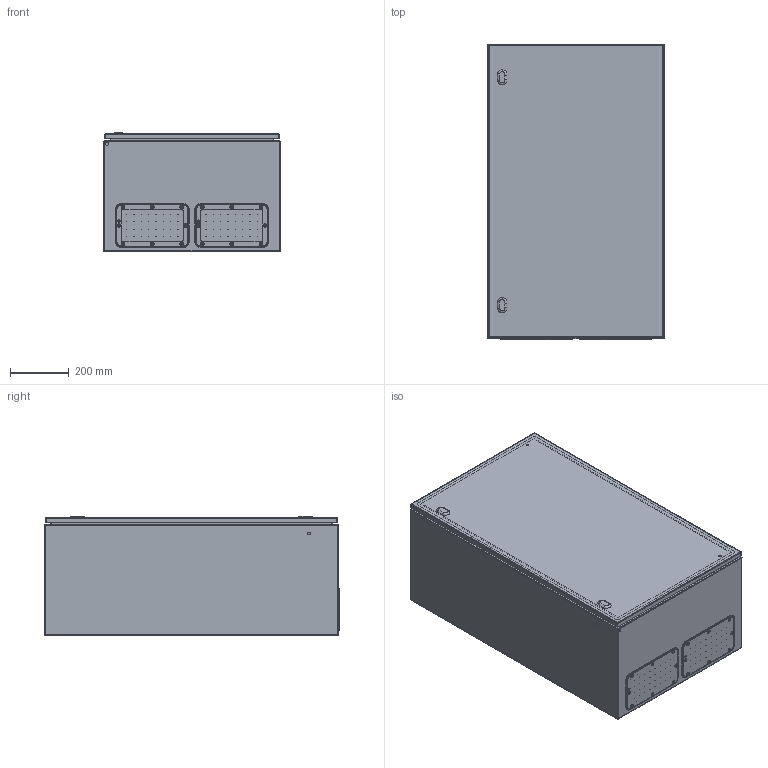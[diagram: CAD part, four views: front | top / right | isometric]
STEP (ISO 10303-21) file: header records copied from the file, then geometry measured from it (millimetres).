
FILE_DESCRIPTION (( 'STEP AP203' ), '1' );
FILE_NAME ('0600x1000x0400 dx.step', '2021-09-07T06:42:08', ( '' ), ( '' ), 'SwSTEP 2.0', 'SolidWorks 2021', '' );
FILE_SCHEMA (( 'CONFIG_CONTROL_DESIGN' ));
Length unit declared in the file: millimetre
Products named in the file (7): AR_ECOR_chiusura_std_STD; AR_ECOR_flangia IC_03; AR_ECOR_involucro_0600x1000x0400; AR_ECOR_porta_singola_0600x1000; AR_ECOR_montaggio_porta_singola_0600x1000; 0600x1000x0400 dx; AR_ECOR_Piastra_18
Assembly tree (8 placements, depth 3):
  0600x1000x0400 dx
    AR_ECOR_involucro_0600x1000x0400
    AR_ECOR_montaggio_porta_singola_0600x1000
      AR_ECOR_porta_singola_0600x1000
      AR_ECOR_chiusura_std_STD  x2
    AR_ECOR_flangia IC_03  x2
    AR_ECOR_Piastra_18
Bounding box: 600 x 1004 x 405 mm (x, y, z)
Volume: 5625180.3 mm3; surface area: 6400689.3 mm2
Topology: 7 solids, 7 shells, 1119 faces, 2785 edges, 1758 vertices
Faces by surface type: cylinder 549, plane 316, cone 108, torus 78, bspline 52, sphere 16
Entity records: 27427 total; most frequent: CARTESIAN_POINT 5506, DIRECTION 4693, ORIENTED_EDGE 4212, EDGE_CURVE 2106, AXIS2_PLACEMENT_3D 1862, VERTEX_POINT 1340, EDGE_LOOP 1142, CIRCLE 1041
